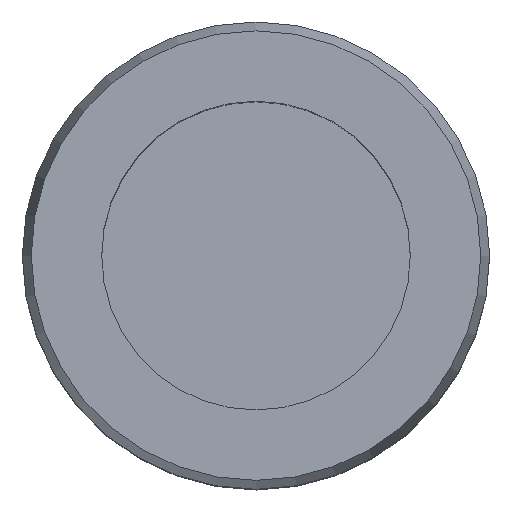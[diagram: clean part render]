
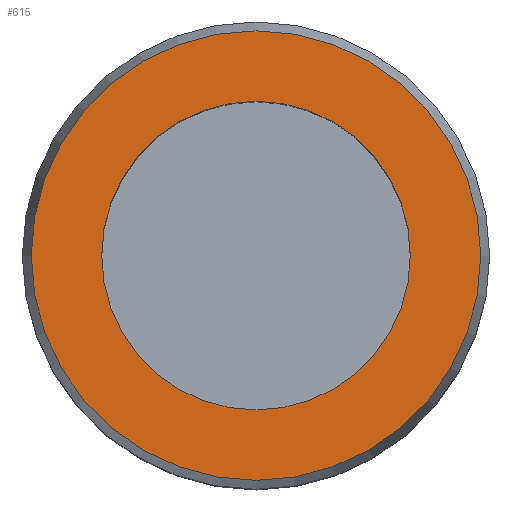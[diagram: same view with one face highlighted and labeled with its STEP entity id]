
A CAD part, top view. The second image highlights one B-rep face of the part: STEP entity #615.
In plain terms, the highlighted planar face has unit normal (0, 0, 1).
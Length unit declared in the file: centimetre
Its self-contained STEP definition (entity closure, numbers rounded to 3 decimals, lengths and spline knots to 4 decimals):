
#203=PLANE('',#687);
#246=VERTEX_POINT('',#1302);
#247=VERTEX_POINT('',#1305);
#274=CIRCLE('',#686,1.544);
#275=CIRCLE('',#688,1.0605);
#342=EDGE_CURVE('',#246,#246,#274,.T.);
#343=EDGE_CURVE('',#247,#247,#275,.T.);
#476=ORIENTED_EDGE('',*,*,#343,.F.);
#477=ORIENTED_EDGE('',*,*,#342,.T.);
#526=EDGE_LOOP('',(#476));
#527=EDGE_LOOP('',(#477));
#576=FACE_BOUND('',#526,.T.);
#577=FACE_BOUND('',#527,.T.);
#615=ADVANCED_FACE('',(#576,#577),#203,.T.);
#686=AXIS2_PLACEMENT_3D('',#1301,#843,#844);
#687=AXIS2_PLACEMENT_3D('',#1303,#845,$);
#688=AXIS2_PLACEMENT_3D('',#1304,#846,#847);
#843=DIRECTION('',(0.,0.,1.));
#844=DIRECTION('',(0.,1.544,0.));
#845=DIRECTION('',(0.,0.,1.));
#846=DIRECTION('',(0.,0.,1.));
#847=DIRECTION('',(0.,1.06,0.));
#1301=CARTESIAN_POINT('',(0.,0.,0.));
#1302=CARTESIAN_POINT('',(0.,1.544,0.));
#1303=CARTESIAN_POINT('',(0.,1.3022,0.));
#1304=CARTESIAN_POINT('',(0.,0.,0.));
#1305=CARTESIAN_POINT('',(0.,1.0605,0.));
